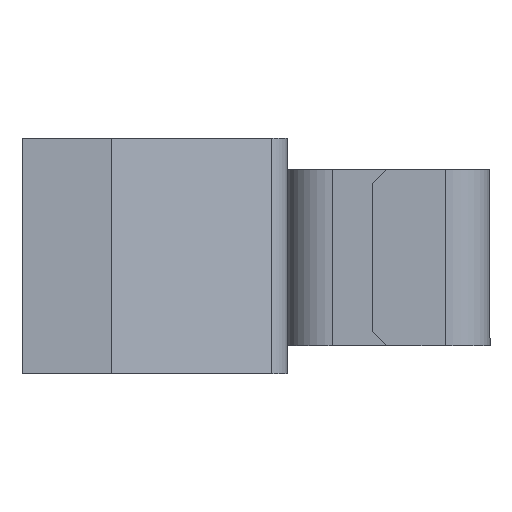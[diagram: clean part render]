
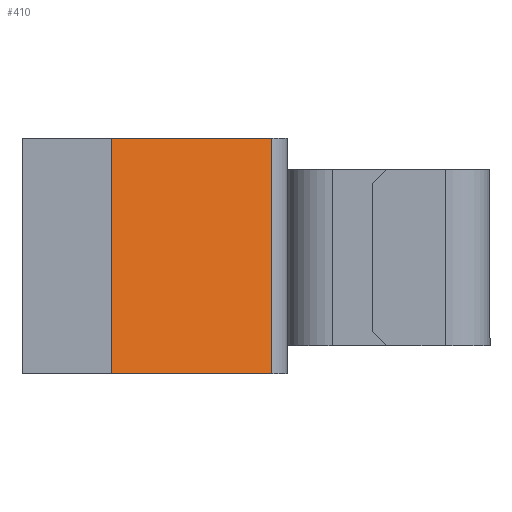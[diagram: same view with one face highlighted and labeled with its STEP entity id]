
A CAD part, left-side view. The second image highlights one B-rep face of the part: STEP entity #410.
In plain terms, the highlighted planar face has unit normal (-0.904, -0.427, 0).
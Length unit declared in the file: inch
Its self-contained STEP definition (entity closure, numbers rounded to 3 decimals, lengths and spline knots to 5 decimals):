
#164 = ORIENTED_EDGE ( 'NONE', *, *, #678, .T. ) ;
#354 = EDGE_CURVE ( 'NONE', #676, #600, #1221, .T. ) ;
#361 = EDGE_LOOP ( 'NONE', ( #164, #677, #602, #606 ) ) ;
#410 = ADVANCED_FACE ( 'NONE', ( #1416 ), #1415, .T. ) ;
#600 = VERTEX_POINT ( 'NONE', #1304 ) ;
#602 = ORIENTED_EDGE ( 'NONE', *, *, #657, .F. ) ;
#606 = ORIENTED_EDGE ( 'NONE', *, *, #658, .F. ) ;
#642 = VERTEX_POINT ( 'NONE', #1460 ) ;
#657 = EDGE_CURVE ( 'NONE', #642, #600, #1425, .T. ) ;
#658 = EDGE_CURVE ( 'NONE', #671, #642, #1513, .T. ) ;
#671 = VERTEX_POINT ( 'NONE', #1597 ) ;
#676 = VERTEX_POINT ( 'NONE', #1549 ) ;
#677 = ORIENTED_EDGE ( 'NONE', *, *, #354, .T. ) ;
#678 = EDGE_CURVE ( 'NONE', #671, #676, #1548, .T. ) ;
#1218 = DIRECTION ( 'NONE',  ( 0., 0., 1. ) ) ;
#1219 = VECTOR ( 'NONE', #1218, 39.37008 ) ;
#1220 = CARTESIAN_POINT ( 'NONE',  ( -8.02325, -0.31125, -1. ) ) ;
#1221 = LINE ( 'NONE', #1220, #1219 ) ;
#1304 = CARTESIAN_POINT ( 'NONE',  ( -8.02325, -0.31125, 0. ) ) ;
#1411 = DIRECTION ( 'NONE',  ( 0.427, -0.904, 0. ) ) ;
#1412 = DIRECTION ( 'NONE',  ( -0.904, -0.427, 0. ) ) ;
#1413 = CARTESIAN_POINT ( 'NONE',  ( -8.345, 0.37, -1. ) ) ;
#1414 = AXIS2_PLACEMENT_3D ( 'NONE', #1413, #1412, #1411 ) ;
#1415 = PLANE ( 'NONE',  #1414 ) ;
#1416 = FACE_OUTER_BOUND ( 'NONE', #361, .T. ) ;
#1425 = LINE ( 'NONE', #1516, #1515 ) ;
#1460 = CARTESIAN_POINT ( 'NONE',  ( -8.345, 0.37, 0. ) ) ;
#1510 = DIRECTION ( 'NONE',  ( 0., 0., 1. ) ) ;
#1511 = VECTOR ( 'NONE', #1510, 39.37008 ) ;
#1512 = CARTESIAN_POINT ( 'NONE',  ( -8.345, 0.37, -1. ) ) ;
#1513 = LINE ( 'NONE', #1512, #1511 ) ;
#1514 = DIRECTION ( 'NONE',  ( 0.427, -0.904, 0. ) ) ;
#1515 = VECTOR ( 'NONE', #1514, 39.37008 ) ;
#1516 = CARTESIAN_POINT ( 'NONE',  ( -8.345, 0.37, 0. ) ) ;
#1545 = DIRECTION ( 'NONE',  ( 0.427, -0.904, 0. ) ) ;
#1546 = VECTOR ( 'NONE', #1545, 39.37008 ) ;
#1547 = CARTESIAN_POINT ( 'NONE',  ( -8.345, 0.37, -1. ) ) ;
#1548 = LINE ( 'NONE', #1547, #1546 ) ;
#1549 = CARTESIAN_POINT ( 'NONE',  ( -8.02325, -0.31125, -1. ) ) ;
#1597 = CARTESIAN_POINT ( 'NONE',  ( -8.345, 0.37, -1. ) ) ;
